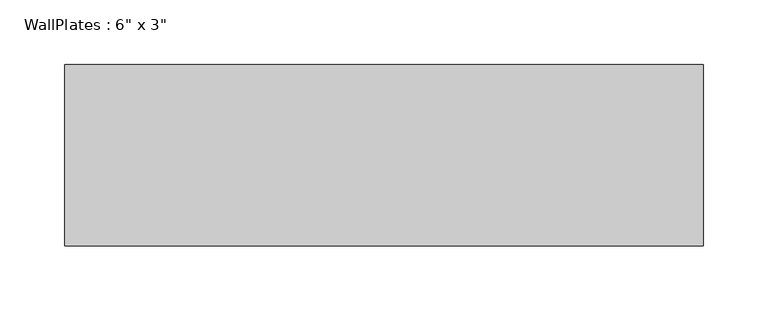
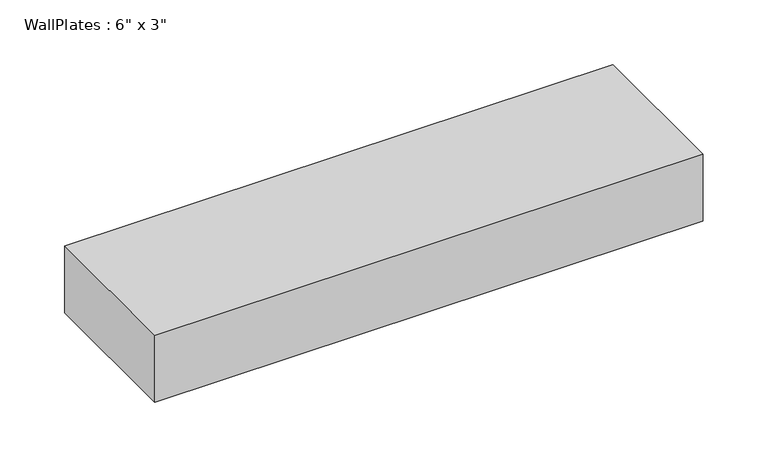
"""IFC4 building model written with IfcOpenShell, lengths in millimetres: beam geometry."""

import ifcopenshell
import ifcopenshell.guid

model = None  # the IFC model being written
_history = None  # IfcOwnerHistory: only IFC2X3 demands one
_inside = {}  # id of a spatial element -> (the spatial element, [elements in it])
_under = {}  # id of a project, library or spatial element -> (it, [spatial elements below it])
_declared = {}  # id of a project -> (the project, [libraries it declares])
_typed = {}  # id of a type object -> (the type object, [elements of that type])
_made_of = {}  # id of a material, layer set ... -> (it, [elements and type objects made of it])


def new_model(schema):
    """Start an empty IFC model of exactly this schema.

    Asked for "IFC4X3", IfcOpenShell would pick the latest addendum, in which some entities
    have other attributes; the version numbers below select the first issue.
    IFC2X3 requires an IfcOwnerHistory on every rooted entity: one is made here for all.
    """
    global model, _history
    if schema == "IFC4X3":
        model = ifcopenshell.file(schema_version=(4, 3, 0, 0))
    else:
        model = ifcopenshell.file(schema=schema)
    _inside.clear()
    _under.clear()
    _declared.clear()
    _typed.clear()
    _made_of.clear()
    _history = None
    if model.schema == "IFC2X3":
        org = make("IfcOrganization", Name="unknown")
        user = make(
            "IfcPersonAndOrganization",
            ThePerson=make("IfcPerson", FamilyName="unknown"),
            TheOrganization=org,
        )
        app = make(
            "IfcApplication",
            ApplicationDeveloper=org,
            Version="unknown",
            ApplicationFullName="unknown",
            ApplicationIdentifier="unknown",
        )
        _history = make(
            "IfcOwnerHistory",
            OwningUser=user,
            OwningApplication=app,
            ChangeAction="ADDED",
            CreationDate=0,
        )
    return model


def make(cls, **values):
    """One entity of the class cls with the attributes given. An attribute that is None is left unset."""
    return model.create_entity(
        cls, **{name: value for name, value in values.items() if value is not None}
    )


def rooted(cls, **values):
    """An entity with a GlobalId (a new one), such as an element, a storey or a relation."""
    return make(cls, GlobalId=ifcopenshell.guid.new(), OwnerHistory=_history, **values)


def si_unit(unit_type, name, prefix=None):
    """IfcSIUnit, for example si_unit("LENGTHUNIT", "METRE", prefix="MILLI")."""
    return make("IfcSIUnit", UnitType=unit_type, Prefix=prefix, Name=name)


def assignment(units):
    """IfcUnitAssignment: the units of a project."""
    return None if units is None else make("IfcUnitAssignment", Units=units)


def point(xyz):
    """IfcCartesianPoint."""
    return None if xyz is None else make("IfcCartesianPoint", Coordinates=xyz)


def direction(xyz):
    """IfcDirection."""
    return None if xyz is None else make("IfcDirection", DirectionRatios=xyz)


def frame(location, z_axis=None, x_axis=None):
    """IfcAxis2Placement3D, a coordinate frame: its origin and axes. An axis left out is left unset."""
    return make(
        "IfcAxis2Placement3D",
        Location=point(location),
        Axis=direction(z_axis),
        RefDirection=direction(x_axis),
    )


def origin():
    """The frame at (0, 0, 0) with its axes left unset."""
    return frame((0.0, 0.0, 0.0))


def place(relative_to, where):
    """IfcLocalPlacement: puts the frame where relative to a parent placement (None: the world)."""
    return make(
        "IfcLocalPlacement", PlacementRelTo=relative_to, RelativePlacement=where
    )


def context(
    kind, dimensions, precision=None, world=None, true_north=None, identifier=None
):
    """IfcGeometricRepresentationContext, for example the 3D "Model" context."""
    return make(
        "IfcGeometricRepresentationContext",
        ContextIdentifier=identifier,
        ContextType=kind,
        CoordinateSpaceDimension=dimensions,
        Precision=precision,
        WorldCoordinateSystem=world,
        TrueNorth=true_north,
    )


def project(units=None, contexts=None):
    """IfcProject with its units and contexts."""
    return rooted(
        "IfcProject",
        Name="project",
        RepresentationContexts=contexts,
        UnitsInContext=assignment(units),
    )


def spatial(cls, under=None, at=None, **own):
    """A site, building, storey or space (cls), placed at a placement, below another one or the project."""
    s = rooted(cls, ObjectPlacement=at, **own)
    if under is not None:
        _under.setdefault(under.id(), (under, []))[1].append(s)
    return s


def polyline(points):
    """IfcPolyline through the points."""
    return make("IfcPolyline", Points=[point(p) for p in points])


def outline(outer, holes=None, kind="AREA"):
    """IfcArbitraryClosedProfileDef: a profile drawn as a closed curve; with holes, ...WithVoids."""
    if holes is None:
        return make("IfcArbitraryClosedProfileDef", ProfileType=kind, OuterCurve=outer)
    return make(
        "IfcArbitraryProfileDefWithVoids",
        ProfileType=kind,
        OuterCurve=outer,
        InnerCurves=holes,
    )


def extrude(swept, where, along, depth):
    """IfcExtrudedAreaSolid: the profile swept, set in the frame where, extruded along a direction by depth."""
    return make(
        "IfcExtrudedAreaSolid",
        SweptArea=swept,
        Position=where,
        ExtrudedDirection=direction(along),
        Depth=depth,
    )


def shape(context_of_items, identifier, shape_type, items):
    """IfcShapeRepresentation: the items that make up one representation, for example the "Body"."""
    return make(
        "IfcShapeRepresentation",
        ContextOfItems=context_of_items,
        RepresentationIdentifier=identifier,
        RepresentationType=shape_type,
        Items=items,
    )


def source(mapping_origin, context_of_items, identifier, shape_type, items):
    """IfcRepresentationMap: a shape defined once, which mapped items show again and again."""
    return make(
        "IfcRepresentationMap",
        MappingOrigin=mapping_origin,
        MappedRepresentation=shape(context_of_items, identifier, shape_type, items),
    )


def transform(
    local_origin,
    x_axis=None,
    y_axis=None,
    z_axis=None,
    scale=None,
    scale2=None,
    scale3=None,
    uniform=True,
):
    """IfcCartesianTransformationOperator3D, or its non-uniform kind. x_axis, y_axis, z_axis: its Axis1, 2, 3."""
    if uniform:
        return make(
            "IfcCartesianTransformationOperator3D",
            Axis1=direction(x_axis),
            Axis2=direction(y_axis),
            LocalOrigin=point(local_origin),
            Scale=scale,
            Axis3=direction(z_axis),
        )
    return make(
        "IfcCartesianTransformationOperator3DnonUniform",
        Axis1=direction(x_axis),
        Axis2=direction(y_axis),
        LocalOrigin=point(local_origin),
        Scale=scale,
        Axis3=direction(z_axis),
        Scale2=scale2,
        Scale3=scale3,
    )


def mapped(mapping_source, mapping_target):
    """IfcMappedItem: shows the shape of a source again, moved by a transform."""
    return make(
        "IfcMappedItem", MappingSource=mapping_source, MappingTarget=mapping_target
    )


def made_of(thing, what):
    """Note that an element or type object is made of a material, layer set ...; save() writes the relation."""
    if what is not None:
        _made_of.setdefault(what.id(), (what, []))[1].append(thing)
    return thing


def element(
    cls,
    number,
    at=None,
    inside=None,
    cuts=None,
    type_object=None,
    material=None,
    context=None,
    identifier="Body",
    shape_type=None,
    held_by="IfcProductDefinitionShape",
    body=None,
    shapes=None,
    **own,
):
    """One element of the class cls, such as IfcWall. Its Tag is "e" and its number.

    at: its placement. inside: the storey or other place that contains it. cuts: it is an
    opening in that element (IfcRelVoidsElement). A single representation is given by context,
    identifier, shape_type and body (its items); several are given by shapes. held_by: the class
    of the entity that holds the representations. save() writes the other relations.
    """
    e = rooted(cls, Tag="e%d" % number, ObjectPlacement=at, **own)
    if body is not None:
        shapes = [shape(context, identifier, shape_type, body)]
    if shapes is not None:
        e.Representation = make(held_by, Representations=shapes)
    if inside is not None:
        _inside.setdefault(inside.id(), (inside, []))[1].append(e)
    if cuts is not None:
        rooted(
            "IfcRelVoidsElement", RelatingBuildingElement=cuts, RelatedOpeningElement=e
        )
    if type_object is not None:
        _typed.setdefault(type_object.id(), (type_object, []))[1].append(e)
    return made_of(e, material)


def aggregate(whole, parts):
    """IfcRelAggregates: a whole, such as a stair, and the parts it consists of."""
    return rooted("IfcRelAggregates", RelatingObject=whole, RelatedObjects=parts)


def save(model, path):
    """Write the relations noted so far, then the file.

    IfcRelAggregates (storeys below a building ...), IfcRelContainedInSpatialStructure (elements
    in a storey), IfcRelDefinesByType, IfcRelAssociatesMaterial and IfcRelDeclares: one each for
    every whole, place, type object, material and project.
    """
    for whole, parts in _under.values():
        aggregate(whole, parts)
    for where, things in _inside.values():
        rooted(
            "IfcRelContainedInSpatialStructure",
            RelatedElements=things,
            RelatingStructure=where,
        )
    for kind, things in _typed.values():
        rooted("IfcRelDefinesByType", RelatedObjects=things, RelatingType=kind)
    for what, things in _made_of.values():
        rooted("IfcRelAssociatesMaterial", RelatedObjects=things, RelatingMaterial=what)
    for by, libraries in _declared.values():
        rooted("IfcRelDeclares", RelatingContext=by, RelatedDefinitions=libraries)
    model.write(path)


def beam_b0e6f51d(model_context):
    return source(origin(), model_context, "Body", "SweptSolid", [
        extrude(outline(polyline([(-245.5333333, -69.85), (-245.5333333, 69.85), (245.5333333, 69.85), (245.5333333, -69.85), (-245.5333333, -69.85)])), frame((0.0, 0.0, -31.75), z_axis=(0.0, 0.0, 1.0), x_axis=(1.0, 0.0, 0.0)), (0.0, 0.0, 1.0), 63.5),
    ])


if __name__ == "__main__":
    model = new_model("IFC4")
    model_context = context("Model", 3, world=origin())
    ifc_project = project(units=[si_unit("LENGTHUNIT", "METRE", prefix="MILLI")], contexts=[model_context])
    site = spatial("IfcSite", under=ifc_project)
    building = spatial("IfcBuilding", under=site)
    placement = place(None, origin())
    beam_shape = beam_b0e6f51d(model_context)
    element("IfcBeam", 1, ObjectType="WallPlates : 6\" x 3\"", at=placement, inside=building, context=model_context, shape_type="MappedRepresentation", body=[
        mapped(beam_shape, transform((0.0, 0.0, 0.0), x_axis=(1.0, 0.0, 0.0), y_axis=(0.0, 1.0, 0.0), z_axis=(0.0, 0.0, 1.0))),
    ])
    save(model, "model.ifc")
